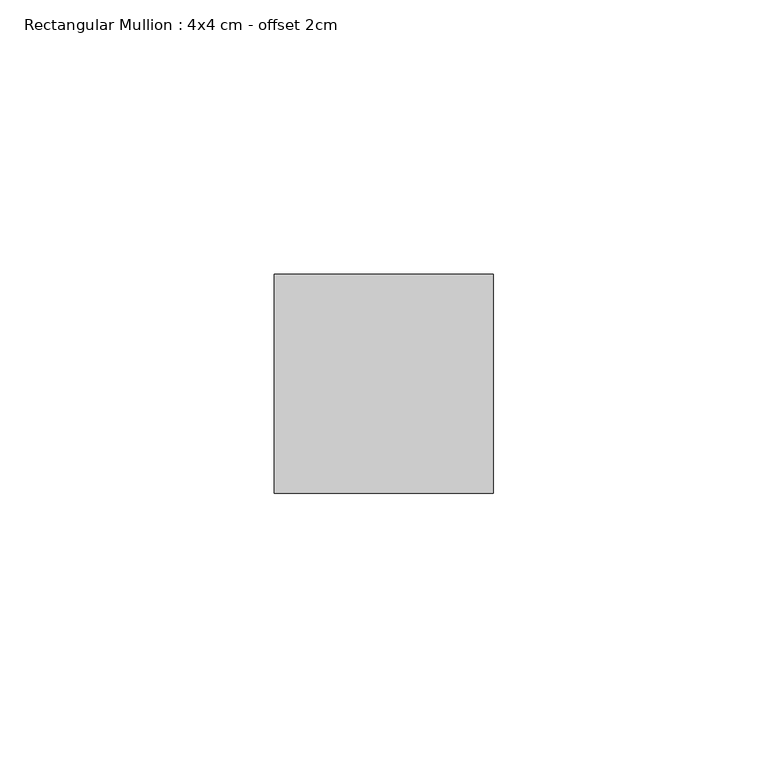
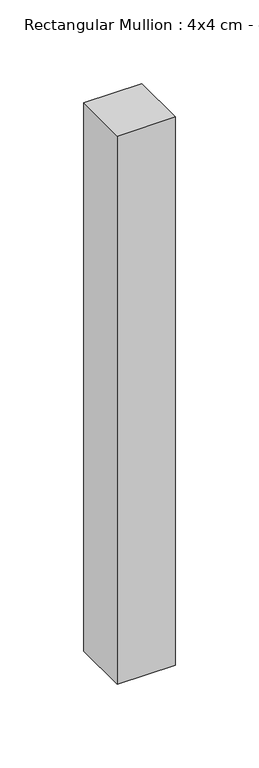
"""IFC4 building model written with IfcOpenShell, lengths in millimetres: member geometry, Rectangular Mullion : 4x4 cm - offset 2cm."""

import ifcopenshell
import ifcopenshell.guid

model = None  # the IFC model being written
_history = None  # IfcOwnerHistory: only IFC2X3 demands one
_inside = {}  # id of a spatial element -> (the spatial element, [elements in it])
_under = {}  # id of a project, library or spatial element -> (it, [spatial elements below it])
_declared = {}  # id of a project -> (the project, [libraries it declares])
_typed = {}  # id of a type object -> (the type object, [elements of that type])
_made_of = {}  # id of a material, layer set ... -> (it, [elements and type objects made of it])


def new_model(schema):
    """Start an empty IFC model of exactly this schema.

    Asked for "IFC4X3", IfcOpenShell would pick the latest addendum, in which some entities
    have other attributes; the version numbers below select the first issue.
    IFC2X3 requires an IfcOwnerHistory on every rooted entity: one is made here for all.
    """
    global model, _history
    if schema == "IFC4X3":
        model = ifcopenshell.file(schema_version=(4, 3, 0, 0))
    else:
        model = ifcopenshell.file(schema=schema)
    _inside.clear()
    _under.clear()
    _declared.clear()
    _typed.clear()
    _made_of.clear()
    _history = None
    if model.schema == "IFC2X3":
        org = make("IfcOrganization", Name="unknown")
        user = make(
            "IfcPersonAndOrganization",
            ThePerson=make("IfcPerson", FamilyName="unknown"),
            TheOrganization=org,
        )
        app = make(
            "IfcApplication",
            ApplicationDeveloper=org,
            Version="unknown",
            ApplicationFullName="unknown",
            ApplicationIdentifier="unknown",
        )
        _history = make(
            "IfcOwnerHistory",
            OwningUser=user,
            OwningApplication=app,
            ChangeAction="ADDED",
            CreationDate=0,
        )
    return model


def make(cls, **values):
    """One entity of the class cls with the attributes given. An attribute that is None is left unset."""
    return model.create_entity(
        cls, **{name: value for name, value in values.items() if value is not None}
    )


def rooted(cls, **values):
    """An entity with a GlobalId (a new one), such as an element, a storey or a relation."""
    return make(cls, GlobalId=ifcopenshell.guid.new(), OwnerHistory=_history, **values)


def si_unit(unit_type, name, prefix=None):
    """IfcSIUnit, for example si_unit("LENGTHUNIT", "METRE", prefix="MILLI")."""
    return make("IfcSIUnit", UnitType=unit_type, Prefix=prefix, Name=name)


def assignment(units):
    """IfcUnitAssignment: the units of a project."""
    return None if units is None else make("IfcUnitAssignment", Units=units)


def point(xyz):
    """IfcCartesianPoint."""
    return None if xyz is None else make("IfcCartesianPoint", Coordinates=xyz)


def direction(xyz):
    """IfcDirection."""
    return None if xyz is None else make("IfcDirection", DirectionRatios=xyz)


def frame(location, z_axis=None, x_axis=None):
    """IfcAxis2Placement3D, a coordinate frame: its origin and axes. An axis left out is left unset."""
    return make(
        "IfcAxis2Placement3D",
        Location=point(location),
        Axis=direction(z_axis),
        RefDirection=direction(x_axis),
    )


def origin():
    """The frame at (0, 0, 0) with its axes left unset."""
    return frame((0.0, 0.0, 0.0))


def place(relative_to, where):
    """IfcLocalPlacement: puts the frame where relative to a parent placement (None: the world)."""
    return make(
        "IfcLocalPlacement", PlacementRelTo=relative_to, RelativePlacement=where
    )


def context(
    kind, dimensions, precision=None, world=None, true_north=None, identifier=None
):
    """IfcGeometricRepresentationContext, for example the 3D "Model" context."""
    return make(
        "IfcGeometricRepresentationContext",
        ContextIdentifier=identifier,
        ContextType=kind,
        CoordinateSpaceDimension=dimensions,
        Precision=precision,
        WorldCoordinateSystem=world,
        TrueNorth=true_north,
    )


def project(units=None, contexts=None):
    """IfcProject with its units and contexts."""
    return rooted(
        "IfcProject",
        Name="project",
        RepresentationContexts=contexts,
        UnitsInContext=assignment(units),
    )


def spatial(cls, under=None, at=None, **own):
    """A site, building, storey or space (cls), placed at a placement, below another one or the project."""
    s = rooted(cls, ObjectPlacement=at, **own)
    if under is not None:
        _under.setdefault(under.id(), (under, []))[1].append(s)
    return s


def polyline(points):
    """IfcPolyline through the points."""
    return make("IfcPolyline", Points=[point(p) for p in points])


def outline(outer, holes=None, kind="AREA"):
    """IfcArbitraryClosedProfileDef: a profile drawn as a closed curve; with holes, ...WithVoids."""
    if holes is None:
        return make("IfcArbitraryClosedProfileDef", ProfileType=kind, OuterCurve=outer)
    return make(
        "IfcArbitraryProfileDefWithVoids",
        ProfileType=kind,
        OuterCurve=outer,
        InnerCurves=holes,
    )


def extrude(swept, where, along, depth):
    """IfcExtrudedAreaSolid: the profile swept, set in the frame where, extruded along a direction by depth."""
    return make(
        "IfcExtrudedAreaSolid",
        SweptArea=swept,
        Position=where,
        ExtrudedDirection=direction(along),
        Depth=depth,
    )


def shape(context_of_items, identifier, shape_type, items):
    """IfcShapeRepresentation: the items that make up one representation, for example the "Body"."""
    return make(
        "IfcShapeRepresentation",
        ContextOfItems=context_of_items,
        RepresentationIdentifier=identifier,
        RepresentationType=shape_type,
        Items=items,
    )


def source(mapping_origin, context_of_items, identifier, shape_type, items):
    """IfcRepresentationMap: a shape defined once, which mapped items show again and again."""
    return make(
        "IfcRepresentationMap",
        MappingOrigin=mapping_origin,
        MappedRepresentation=shape(context_of_items, identifier, shape_type, items),
    )


def transform(
    local_origin,
    x_axis=None,
    y_axis=None,
    z_axis=None,
    scale=None,
    scale2=None,
    scale3=None,
    uniform=True,
):
    """IfcCartesianTransformationOperator3D, or its non-uniform kind. x_axis, y_axis, z_axis: its Axis1, 2, 3."""
    if uniform:
        return make(
            "IfcCartesianTransformationOperator3D",
            Axis1=direction(x_axis),
            Axis2=direction(y_axis),
            LocalOrigin=point(local_origin),
            Scale=scale,
            Axis3=direction(z_axis),
        )
    return make(
        "IfcCartesianTransformationOperator3DnonUniform",
        Axis1=direction(x_axis),
        Axis2=direction(y_axis),
        LocalOrigin=point(local_origin),
        Scale=scale,
        Axis3=direction(z_axis),
        Scale2=scale2,
        Scale3=scale3,
    )


def mapped(mapping_source, mapping_target):
    """IfcMappedItem: shows the shape of a source again, moved by a transform."""
    return make(
        "IfcMappedItem", MappingSource=mapping_source, MappingTarget=mapping_target
    )


def made_of(thing, what):
    """Note that an element or type object is made of a material, layer set ...; save() writes the relation."""
    if what is not None:
        _made_of.setdefault(what.id(), (what, []))[1].append(thing)
    return thing


def element(
    cls,
    number,
    at=None,
    inside=None,
    cuts=None,
    type_object=None,
    material=None,
    context=None,
    identifier="Body",
    shape_type=None,
    held_by="IfcProductDefinitionShape",
    body=None,
    shapes=None,
    **own,
):
    """One element of the class cls, such as IfcWall. Its Tag is "e" and its number.

    at: its placement. inside: the storey or other place that contains it. cuts: it is an
    opening in that element (IfcRelVoidsElement). A single representation is given by context,
    identifier, shape_type and body (its items); several are given by shapes. held_by: the class
    of the entity that holds the representations. save() writes the other relations.
    """
    e = rooted(cls, Tag="e%d" % number, ObjectPlacement=at, **own)
    if body is not None:
        shapes = [shape(context, identifier, shape_type, body)]
    if shapes is not None:
        e.Representation = make(held_by, Representations=shapes)
    if inside is not None:
        _inside.setdefault(inside.id(), (inside, []))[1].append(e)
    if cuts is not None:
        rooted(
            "IfcRelVoidsElement", RelatingBuildingElement=cuts, RelatedOpeningElement=e
        )
    if type_object is not None:
        _typed.setdefault(type_object.id(), (type_object, []))[1].append(e)
    return made_of(e, material)


def aggregate(whole, parts):
    """IfcRelAggregates: a whole, such as a stair, and the parts it consists of."""
    return rooted("IfcRelAggregates", RelatingObject=whole, RelatedObjects=parts)


def save(model, path):
    """Write the relations noted so far, then the file.

    IfcRelAggregates (storeys below a building ...), IfcRelContainedInSpatialStructure (elements
    in a storey), IfcRelDefinesByType, IfcRelAssociatesMaterial and IfcRelDeclares: one each for
    every whole, place, type object, material and project.
    """
    for whole, parts in _under.values():
        aggregate(whole, parts)
    for where, things in _inside.values():
        rooted(
            "IfcRelContainedInSpatialStructure",
            RelatedElements=things,
            RelatingStructure=where,
        )
    for kind, things in _typed.values():
        rooted("IfcRelDefinesByType", RelatedObjects=things, RelatingType=kind)
    for what, things in _made_of.values():
        rooted("IfcRelAssociatesMaterial", RelatedObjects=things, RelatingMaterial=what)
    for by, libraries in _declared.values():
        rooted("IfcRelDeclares", RelatingContext=by, RelatedDefinitions=libraries)
    model.write(path)


def rectangular_mullion_4x4_cm_offset_2cm_498bcaa4(model_context):
    return source(origin(), model_context, "Body", "SweptSolid", [
        extrude(outline(polyline([(40.0, 40.0), (40.0, 0.0), (0.0, 0.0), (0.0, 40.0), (40.0, 40.0)])), frame((0.0, 0.0, -399.9999997), z_axis=(0.0, 0.0, 1.0), x_axis=(1.0, 0.0, 0.0)), (0.0, 0.0, 1.0), 399.9999997),
    ])


if __name__ == "__main__":
    model = new_model("IFC4")
    model_context = context("Model", 3, world=origin())
    ifc_project = project(units=[si_unit("LENGTHUNIT", "METRE", prefix="MILLI")], contexts=[model_context])
    site = spatial("IfcSite", under=ifc_project)
    building = spatial("IfcBuilding", under=site)
    placement = place(None, origin())
    rectangular_mullion_4x4_cm_offset_2cm_shape = rectangular_mullion_4x4_cm_offset_2cm_498bcaa4(model_context)
    element("IfcMember", 1, ObjectType="Rectangular Mullion : 4x4 cm - offset 2cm", at=placement, inside=building, context=model_context, shape_type="MappedRepresentation", body=[
        mapped(rectangular_mullion_4x4_cm_offset_2cm_shape, transform((0.0, 0.0, 0.0), x_axis=(1.0, 0.0, 0.0), y_axis=(0.0, 1.0, 0.0), z_axis=(0.0, 0.0, 1.0))),
    ])
    save(model, "model.ifc")
